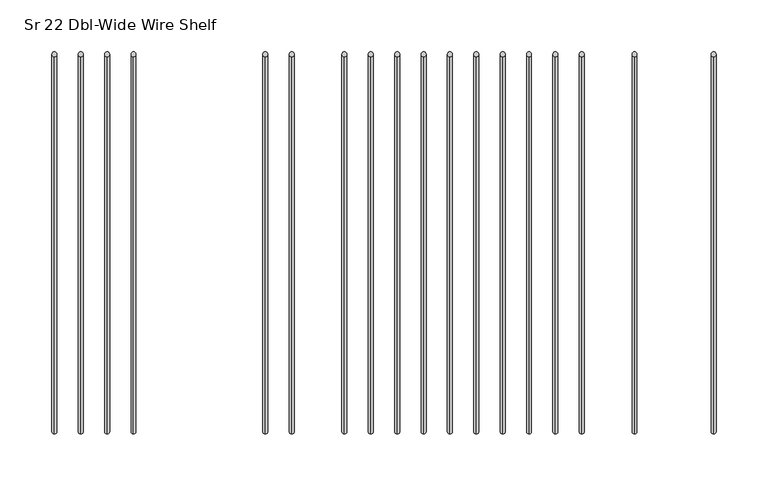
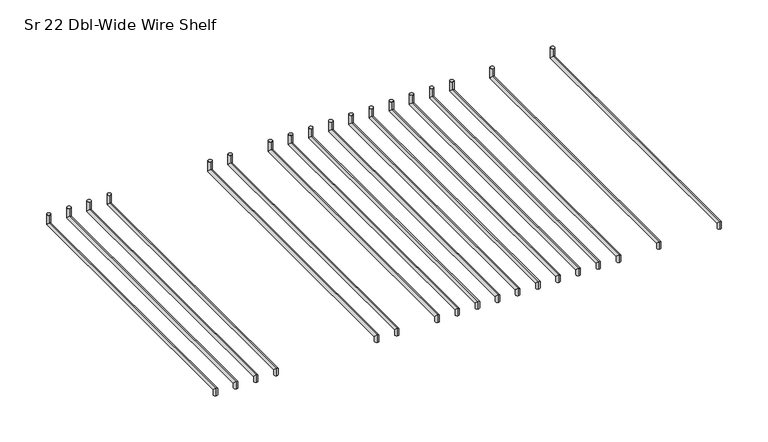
"""IFC4 building model written with IfcOpenShell, lengths in millimetres: furniture geometry, HermanMiller_Carts_CT521_CartShelf : Sr 22 Dbl-Wide Wire Shelf."""

from ifc_helpers import new_model, si_unit, frame, origin, place, context, project, spatial, circle_curve, ellipse_curve, source, transform, mapped, element, save
from ifc_brep_helpers import plane_surface, cylinder_surface, advanced_brep


def sr_22_dbl_wide_wire_shelf_ce08453b(model_context):
    return source(origin(), model_context, "Body", "AdvancedBrep", [
        advanced_brep(
        [(358.5223083, -206.38135, 1843.6971), (358.5223083, -211.14385, 1843.6971), (358.5223083, -206.38135, 1848.4596), (358.5223083, -211.14385, 1853.2221), (358.5223083, 157.2983379, 1848.4596), (358.5223083, 152.5358379, 1853.2221), (358.5223083, 157.2983379, 1863.7377), (358.5223083, 152.5358379, 1863.7377)],
        [
            (0, 1, circle_curve(frame((358.5223083, -208.7626, 1843.6971), z_axis=(0.0, 0.0, -1.0), x_axis=(0.0, -1.0, 0.0)), 2.38125)),
            (1, 0, circle_curve(frame((358.5223083, -208.7626, 1843.6971), z_axis=(0.0, 0.0, -1.0), x_axis=(0.0, -1.0, 0.0)), 2.38125)),
            (0, 2),
            (2, 3, ellipse_curve(frame((358.5223083, -208.7626, 1850.84085), z_axis=(0.0, -0.7071067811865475, -0.7071067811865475), x_axis=(0.0, 0.7071067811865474, -0.7071067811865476)), 3.367596, 2.38125)),
            (3, 1),
            (3, 2, ellipse_curve(frame((358.5223083, -208.7626, 1850.84085), z_axis=(0.0, -0.7071067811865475, -0.7071067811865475), x_axis=(0.0, 0.7071067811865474, -0.7071067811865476)), 3.367596, 2.38125)),
            (2, 4),
            (4, 5, ellipse_curve(frame((358.5223083, 154.9170879, 1850.84085), z_axis=(0.0, -0.7071067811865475, -0.7071067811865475), x_axis=(0.0, -0.7071067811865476, 0.7071067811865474)), 3.367596, 2.38125)),
            (5, 3),
            (5, 4, ellipse_curve(frame((358.5223083, 154.9170879, 1850.84085), z_axis=(0.0, -0.7071067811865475, -0.7071067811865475), x_axis=(0.0, -0.7071067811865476, 0.7071067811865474)), 3.367596, 2.38125)),
            (6, 7, circle_curve(frame((358.5223083, 154.9170879, 1863.7377), z_axis=(0.0, 0.0, 1.0), x_axis=(0.0, -1.0, 0.0)), 2.38125)),
            (7, 6, circle_curve(frame((358.5223083, 154.9170879, 1863.7377), z_axis=(0.0, 0.0, 1.0), x_axis=(0.0, -1.0, 0.0)), 2.38125)),
            (4, 6),
            (7, 5),
        ],
        [
            plane_surface(frame((358.5223083, -208.7626, 1843.6971), z_axis=(0.0, 0.0, -1.0), x_axis=(1.0, 0.0, 0.0))),
            cylinder_surface(frame((358.5223083, -208.7626, 1843.6971), z_axis=(0.0, 0.0, -1.0), x_axis=(0.0, -1.0, 0.0)), 2.38125),
            cylinder_surface(frame((358.5223083, -208.7626, 1850.84085), z_axis=(0.0, -1.0, 0.0), x_axis=(0.0, 0.0, 1.0)), 2.38125),
            plane_surface(frame((358.5223083, 154.9170879, 1863.7377), z_axis=(0.0, 0.0, 1.0), x_axis=(1.0, 0.0, 0.0))),
            cylinder_surface(frame((358.5223083, 154.9170879, 1850.84085), z_axis=(0.0, 0.0, -1.0), x_axis=(0.0, -1.0, 0.0)), 2.38125),
        ],
        [
            (0, [[1, 2]]),
            (1, [[-1, 3, 4, 5]]),
            (1, [[-2, -5, 6, -3]]),
            (2, [[-4, 7, 8, 9]]),
            (2, [[-6, -9, 10, -7]]),
            (3, [[11, 12]]),
            (4, [[-8, 13, -12, 14]]),
            (4, [[-10, -14, -11, -13]]),
        ],
    ),
        advanced_brep(
        [(282.3223083, -206.38135, 1843.6971), (282.3223083, -211.14385, 1843.6971), (282.3223083, -206.38135, 1848.4596), (282.3223083, -211.14385, 1853.2221), (282.3223083, 157.2983379, 1848.4596), (282.3223083, 152.5358379, 1853.2221), (282.3223083, 157.2983379, 1863.7377), (282.3223083, 152.5358379, 1863.7377)],
        [
            (0, 1, circle_curve(frame((282.3223083, -208.7626, 1843.6971), z_axis=(0.0, 0.0, -1.0), x_axis=(0.0, -1.0, 0.0)), 2.38125)),
            (1, 0, circle_curve(frame((282.3223083, -208.7626, 1843.6971), z_axis=(0.0, 0.0, -1.0), x_axis=(0.0, -1.0, 0.0)), 2.38125)),
            (0, 2),
            (2, 3, ellipse_curve(frame((282.3223083, -208.7626, 1850.84085), z_axis=(0.0, -0.7071067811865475, -0.7071067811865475), x_axis=(0.0, 0.7071067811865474, -0.7071067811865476)), 3.367596, 2.38125)),
            (3, 1),
            (3, 2, ellipse_curve(frame((282.3223083, -208.7626, 1850.84085), z_axis=(0.0, -0.7071067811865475, -0.7071067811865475), x_axis=(0.0, 0.7071067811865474, -0.7071067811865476)), 3.367596, 2.38125)),
            (2, 4),
            (4, 5, ellipse_curve(frame((282.3223083, 154.9170879, 1850.84085), z_axis=(0.0, -0.7071067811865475, -0.7071067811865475), x_axis=(0.0, -0.7071067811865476, 0.7071067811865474)), 3.367596, 2.38125)),
            (5, 3),
            (5, 4, ellipse_curve(frame((282.3223083, 154.9170879, 1850.84085), z_axis=(0.0, -0.7071067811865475, -0.7071067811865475), x_axis=(0.0, -0.7071067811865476, 0.7071067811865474)), 3.367596, 2.38125)),
            (6, 7, circle_curve(frame((282.3223083, 154.9170879, 1863.7377), z_axis=(0.0, 0.0, 1.0), x_axis=(0.0, -1.0, 0.0)), 2.38125)),
            (7, 6, circle_curve(frame((282.3223083, 154.9170879, 1863.7377), z_axis=(0.0, 0.0, 1.0), x_axis=(0.0, -1.0, 0.0)), 2.38125)),
            (4, 6),
            (7, 5),
        ],
        [
            plane_surface(frame((282.3223083, -208.7626, 1843.6971), z_axis=(0.0, 0.0, -1.0), x_axis=(1.0, 0.0, 0.0))),
            cylinder_surface(frame((282.3223083, -208.7626, 1843.6971), z_axis=(0.0, 0.0, -1.0), x_axis=(0.0, -1.0, 0.0)), 2.38125),
            cylinder_surface(frame((282.3223083, -208.7626, 1850.84085), z_axis=(0.0, -1.0, 0.0), x_axis=(0.0, 0.0, 1.0)), 2.38125),
            plane_surface(frame((282.3223083, 154.9170879, 1863.7377), z_axis=(0.0, 0.0, 1.0), x_axis=(1.0, 0.0, 0.0))),
            cylinder_surface(frame((282.3223083, 154.9170879, 1850.84085), z_axis=(0.0, 0.0, -1.0), x_axis=(0.0, -1.0, 0.0)), 2.38125),
        ],
        [
            (0, [[1, 2]]),
            (1, [[-1, 3, 4, 5]]),
            (1, [[-2, -5, 6, -3]]),
            (2, [[-4, 7, 8, 9]]),
            (2, [[-6, -9, 10, -7]]),
            (3, [[11, 12]]),
            (4, [[-8, 13, -12, 14]]),
            (4, [[-10, -14, -11, -13]]),
        ],
    ),
        advanced_brep(
        [(28.3223083, -206.38135, 1843.6971), (28.3223083, -211.14385, 1843.6971), (28.3223083, -206.38135, 1848.4596), (28.3223083, -211.14385, 1853.2221), (28.3223083, 157.2983379, 1848.4596), (28.3223083, 152.5358379, 1853.2221), (28.3223083, 157.2983379, 1863.7377), (28.3223083, 152.5358379, 1863.7377)],
        [
            (0, 1, circle_curve(frame((28.3223083, -208.7626, 1843.6971), z_axis=(0.0, 0.0, -1.0), x_axis=(0.0, -1.0, 0.0)), 2.38125)),
            (1, 0, circle_curve(frame((28.3223083, -208.7626, 1843.6971), z_axis=(0.0, 0.0, -1.0), x_axis=(0.0, -1.0, 0.0)), 2.38125)),
            (0, 2),
            (2, 3, ellipse_curve(frame((28.3223083, -208.7626, 1850.84085), z_axis=(0.0, -0.7071067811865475, -0.7071067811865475), x_axis=(0.0, 0.7071067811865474, -0.7071067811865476)), 3.367596, 2.38125)),
            (3, 1),
            (3, 2, ellipse_curve(frame((28.3223083, -208.7626, 1850.84085), z_axis=(0.0, -0.7071067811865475, -0.7071067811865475), x_axis=(0.0, 0.7071067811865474, -0.7071067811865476)), 3.367596, 2.38125)),
            (2, 4),
            (4, 5, ellipse_curve(frame((28.3223083, 154.9170879, 1850.84085), z_axis=(0.0, -0.7071067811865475, -0.7071067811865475), x_axis=(0.0, -0.7071067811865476, 0.7071067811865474)), 3.367596, 2.38125)),
            (5, 3),
            (5, 4, ellipse_curve(frame((28.3223083, 154.9170879, 1850.84085), z_axis=(0.0, -0.7071067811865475, -0.7071067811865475), x_axis=(0.0, -0.7071067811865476, 0.7071067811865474)), 3.367596, 2.38125)),
            (6, 7, circle_curve(frame((28.3223083, 154.9170879, 1863.7377), z_axis=(0.0, 0.0, 1.0), x_axis=(0.0, -1.0, 0.0)), 2.38125)),
            (7, 6, circle_curve(frame((28.3223083, 154.9170879, 1863.7377), z_axis=(0.0, 0.0, 1.0), x_axis=(0.0, -1.0, 0.0)), 2.38125)),
            (4, 6),
            (7, 5),
        ],
        [
            plane_surface(frame((28.3223083, -208.7626, 1843.6971), z_axis=(0.0, 0.0, -1.0), x_axis=(1.0, 0.0, 0.0))),
            cylinder_surface(frame((28.3223083, -208.7626, 1843.6971), z_axis=(0.0, 0.0, -1.0), x_axis=(0.0, -1.0, 0.0)), 2.38125),
            cylinder_surface(frame((28.3223083, -208.7626, 1850.84085), z_axis=(0.0, -1.0, 0.0), x_axis=(0.0, 0.0, 1.0)), 2.38125),
            plane_surface(frame((28.3223083, 154.9170879, 1863.7377), z_axis=(0.0, 0.0, 1.0), x_axis=(1.0, 0.0, 0.0))),
            cylinder_surface(frame((28.3223083, 154.9170879, 1850.84085), z_axis=(0.0, 0.0, -1.0), x_axis=(0.0, -1.0, 0.0)), 2.38125),
        ],
        [
            (0, [[1, 2]]),
            (1, [[-1, 3, 4, 5]]),
            (1, [[-2, -5, 6, -3]]),
            (2, [[-4, 7, 8, 9]]),
            (2, [[-6, -9, 10, -7]]),
            (3, [[11, 12]]),
            (4, [[-8, 13, -12, 14]]),
            (4, [[-10, -14, -11, -13]]),
        ],
    ),
        advanced_brep(
        [(-47.8776917, -206.38135, 1843.6971), (-47.8776917, -211.14385, 1843.6971), (-47.8776917, -206.38135, 1848.4596), (-47.8776917, -211.14385, 1853.2221), (-47.8776917, 157.2983379, 1848.4596), (-47.8776917, 152.5358379, 1853.2221), (-47.8776917, 157.2983379, 1863.7377), (-47.8776917, 152.5358379, 1863.7377)],
        [
            (0, 1, circle_curve(frame((-47.8776917, -208.7626, 1843.6971), z_axis=(0.0, 0.0, -1.0), x_axis=(0.0, -1.0, 0.0)), 2.38125)),
            (1, 0, circle_curve(frame((-47.8776917, -208.7626, 1843.6971), z_axis=(0.0, 0.0, -1.0), x_axis=(0.0, -1.0, 0.0)), 2.38125)),
            (0, 2),
            (2, 3, ellipse_curve(frame((-47.8776917, -208.7626, 1850.84085), z_axis=(0.0, -0.7071067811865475, -0.7071067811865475), x_axis=(0.0, 0.7071067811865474, -0.7071067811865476)), 3.367596, 2.38125)),
            (3, 1),
            (3, 2, ellipse_curve(frame((-47.8776917, -208.7626, 1850.84085), z_axis=(0.0, -0.7071067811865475, -0.7071067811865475), x_axis=(0.0, 0.7071067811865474, -0.7071067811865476)), 3.367596, 2.38125)),
            (2, 4),
            (4, 5, ellipse_curve(frame((-47.8776917, 154.9170879, 1850.84085), z_axis=(0.0, -0.7071067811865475, -0.7071067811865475), x_axis=(0.0, -0.7071067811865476, 0.7071067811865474)), 3.367596, 2.38125)),
            (5, 3),
            (5, 4, ellipse_curve(frame((-47.8776917, 154.9170879, 1850.84085), z_axis=(0.0, -0.7071067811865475, -0.7071067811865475), x_axis=(0.0, -0.7071067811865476, 0.7071067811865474)), 3.367596, 2.38125)),
            (6, 7, circle_curve(frame((-47.8776917, 154.9170879, 1863.7377), z_axis=(0.0, 0.0, 1.0), x_axis=(0.0, -1.0, 0.0)), 2.38125)),
            (7, 6, circle_curve(frame((-47.8776917, 154.9170879, 1863.7377), z_axis=(0.0, 0.0, 1.0), x_axis=(0.0, -1.0, 0.0)), 2.38125)),
            (4, 6),
            (7, 5),
        ],
        [
            plane_surface(frame((-47.8776917, -208.7626, 1843.6971), z_axis=(0.0, 0.0, -1.0), x_axis=(1.0, 0.0, 0.0))),
            cylinder_surface(frame((-47.8776917, -208.7626, 1843.6971), z_axis=(0.0, 0.0, -1.0), x_axis=(0.0, -1.0, 0.0)), 2.38125),
            cylinder_surface(frame((-47.8776917, -208.7626, 1850.84085), z_axis=(0.0, -1.0, 0.0), x_axis=(0.0, 0.0, 1.0)), 2.38125),
            plane_surface(frame((-47.8776917, 154.9170879, 1863.7377), z_axis=(0.0, 0.0, 1.0), x_axis=(1.0, 0.0, 0.0))),
            cylinder_surface(frame((-47.8776917, 154.9170879, 1850.84085), z_axis=(0.0, 0.0, -1.0), x_axis=(0.0, -1.0, 0.0)), 2.38125),
        ],
        [
            (0, [[1, 2]]),
            (1, [[-1, 3, 4, 5]]),
            (1, [[-2, -5, 6, -3]]),
            (2, [[-4, 7, 8, 9]]),
            (2, [[-6, -9, 10, -7]]),
            (3, [[11, 12]]),
            (4, [[-8, 13, -12, 14]]),
            (4, [[-10, -14, -11, -13]]),
        ],
    ),
        advanced_brep(
        [(-73.2776917, -206.38135, 1843.6971), (-73.2776917, -211.14385, 1843.6971), (-73.2776917, -206.38135, 1848.4596), (-73.2776917, -211.14385, 1853.2221), (-73.2776917, 157.2983379, 1848.4596), (-73.2776917, 152.5358379, 1853.2221), (-73.2776917, 157.2983379, 1863.7377), (-73.2776917, 152.5358379, 1863.7377)],
        [
            (0, 1, circle_curve(frame((-73.2776917, -208.7626, 1843.6971), z_axis=(0.0, 0.0, -1.0), x_axis=(0.0, -1.0, 0.0)), 2.38125)),
            (1, 0, circle_curve(frame((-73.2776917, -208.7626, 1843.6971), z_axis=(0.0, 0.0, -1.0), x_axis=(0.0, -1.0, 0.0)), 2.38125)),
            (0, 2),
            (2, 3, ellipse_curve(frame((-73.2776917, -208.7626, 1850.84085), z_axis=(0.0, -0.7071067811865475, -0.7071067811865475), x_axis=(0.0, 0.7071067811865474, -0.7071067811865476)), 3.367596, 2.38125)),
            (3, 1),
            (3, 2, ellipse_curve(frame((-73.2776917, -208.7626, 1850.84085), z_axis=(0.0, -0.7071067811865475, -0.7071067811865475), x_axis=(0.0, 0.7071067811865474, -0.7071067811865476)), 3.367596, 2.38125)),
            (2, 4),
            (4, 5, ellipse_curve(frame((-73.2776917, 154.9170879, 1850.84085), z_axis=(0.0, -0.7071067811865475, -0.7071067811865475), x_axis=(0.0, -0.7071067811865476, 0.7071067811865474)), 3.367596, 2.38125)),
            (5, 3),
            (5, 4, ellipse_curve(frame((-73.2776917, 154.9170879, 1850.84085), z_axis=(0.0, -0.7071067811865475, -0.7071067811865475), x_axis=(0.0, -0.7071067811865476, 0.7071067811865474)), 3.367596, 2.38125)),
            (6, 7, circle_curve(frame((-73.2776917, 154.9170879, 1863.7377), z_axis=(0.0, 0.0, 1.0), x_axis=(0.0, -1.0, 0.0)), 2.38125)),
            (7, 6, circle_curve(frame((-73.2776917, 154.9170879, 1863.7377), z_axis=(0.0, 0.0, 1.0), x_axis=(0.0, -1.0, 0.0)), 2.38125)),
            (4, 6),
            (7, 5),
        ],
        [
            plane_surface(frame((-73.2776917, -208.7626, 1843.6971), z_axis=(0.0, 0.0, -1.0), x_axis=(1.0, 0.0, 0.0))),
            cylinder_surface(frame((-73.2776917, -208.7626, 1843.6971), z_axis=(0.0, 0.0, -1.0), x_axis=(0.0, -1.0, 0.0)), 2.38125),
            cylinder_surface(frame((-73.2776917, -208.7626, 1850.84085), z_axis=(0.0, -1.0, 0.0), x_axis=(0.0, 0.0, 1.0)), 2.38125),
            plane_surface(frame((-73.2776917, 154.9170879, 1863.7377), z_axis=(0.0, 0.0, 1.0), x_axis=(1.0, 0.0, 0.0))),
            cylinder_surface(frame((-73.2776917, 154.9170879, 1850.84085), z_axis=(0.0, 0.0, -1.0), x_axis=(0.0, -1.0, 0.0)), 2.38125),
        ],
        [
            (0, [[1, 2]]),
            (1, [[-1, 3, 4, 5]]),
            (1, [[-2, -5, 6, -3]]),
            (2, [[-4, 7, 8, 9]]),
            (2, [[-6, -9, 10, -7]]),
            (3, [[11, 12]]),
            (4, [[-8, 13, -12, 14]]),
            (4, [[-10, -14, -11, -13]]),
        ],
    ),
        advanced_brep(
        [(2.9223083, -206.38135, 1843.6971), (2.9223083, -211.14385, 1843.6971), (2.9223083, -206.38135, 1848.4596), (2.9223083, -211.14385, 1853.2221), (2.9223083, 157.2983379, 1848.4596), (2.9223083, 152.5358379, 1853.2221), (2.9223083, 157.2983379, 1863.7377), (2.9223083, 152.5358379, 1863.7377)],
        [
            (0, 1, circle_curve(frame((2.9223083, -208.7626, 1843.6971), z_axis=(0.0, 0.0, -1.0), x_axis=(0.0, -1.0, 0.0)), 2.38125)),
            (1, 0, circle_curve(frame((2.9223083, -208.7626, 1843.6971), z_axis=(0.0, 0.0, -1.0), x_axis=(0.0, -1.0, 0.0)), 2.38125)),
            (0, 2),
            (2, 3, ellipse_curve(frame((2.9223083, -208.7626, 1850.84085), z_axis=(0.0, -0.7071067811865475, -0.7071067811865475), x_axis=(0.0, 0.7071067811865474, -0.7071067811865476)), 3.367596, 2.38125)),
            (3, 1),
            (3, 2, ellipse_curve(frame((2.9223083, -208.7626, 1850.84085), z_axis=(0.0, -0.7071067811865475, -0.7071067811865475), x_axis=(0.0, 0.7071067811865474, -0.7071067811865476)), 3.367596, 2.38125)),
            (2, 4),
            (4, 5, ellipse_curve(frame((2.9223083, 154.9170879, 1850.84085), z_axis=(0.0, -0.7071067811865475, -0.7071067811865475), x_axis=(0.0, -0.7071067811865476, 0.7071067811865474)), 3.367596, 2.38125)),
            (5, 3),
            (5, 4, ellipse_curve(frame((2.9223083, 154.9170879, 1850.84085), z_axis=(0.0, -0.7071067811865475, -0.7071067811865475), x_axis=(0.0, -0.7071067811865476, 0.7071067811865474)), 3.367596, 2.38125)),
            (6, 7, circle_curve(frame((2.9223083, 154.9170879, 1863.7377), z_axis=(0.0, 0.0, 1.0), x_axis=(0.0, -1.0, 0.0)), 2.38125)),
            (7, 6, circle_curve(frame((2.9223083, 154.9170879, 1863.7377), z_axis=(0.0, 0.0, 1.0), x_axis=(0.0, -1.0, 0.0)), 2.38125)),
            (4, 6),
            (7, 5),
        ],
        [
            plane_surface(frame((2.9223083, -208.7626, 1843.6971), z_axis=(0.0, 0.0, -1.0), x_axis=(1.0, 0.0, 0.0))),
            cylinder_surface(frame((2.9223083, -208.7626, 1843.6971), z_axis=(0.0, 0.0, -1.0), x_axis=(0.0, -1.0, 0.0)), 2.38125),
            cylinder_surface(frame((2.9223083, -208.7626, 1850.84085), z_axis=(0.0, -1.0, 0.0), x_axis=(0.0, 0.0, 1.0)), 2.38125),
            plane_surface(frame((2.9223083, 154.9170879, 1863.7377), z_axis=(0.0, 0.0, 1.0), x_axis=(1.0, 0.0, 0.0))),
            cylinder_surface(frame((2.9223083, 154.9170879, 1850.84085), z_axis=(0.0, 0.0, -1.0), x_axis=(0.0, -1.0, 0.0)), 2.38125),
        ],
        [
            (0, [[1, 2]]),
            (1, [[-1, 3, 4, 5]]),
            (1, [[-2, -5, 6, -3]]),
            (2, [[-4, 7, 8, 9]]),
            (2, [[-6, -9, 10, -7]]),
            (3, [[11, 12]]),
            (4, [[-8, 13, -12, 14]]),
            (4, [[-10, -14, -11, -13]]),
        ],
    ),
        advanced_brep(
        [(53.7223083, -206.38135, 1843.6971), (53.7223083, -211.14385, 1843.6971), (53.7223083, -206.38135, 1848.4596), (53.7223083, -211.14385, 1853.2221), (53.7223083, 157.2983379, 1848.4596), (53.7223083, 152.5358379, 1853.2221), (53.7223083, 157.2983379, 1863.7377), (53.7223083, 152.5358379, 1863.7377)],
        [
            (0, 1, circle_curve(frame((53.7223083, -208.7626, 1843.6971), z_axis=(0.0, 0.0, -1.0), x_axis=(0.0, -1.0, 0.0)), 2.38125)),
            (1, 0, circle_curve(frame((53.7223083, -208.7626, 1843.6971), z_axis=(0.0, 0.0, -1.0), x_axis=(0.0, -1.0, 0.0)), 2.38125)),
            (0, 2),
            (2, 3, ellipse_curve(frame((53.7223083, -208.7626, 1850.84085), z_axis=(0.0, -0.7071067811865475, -0.7071067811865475), x_axis=(0.0, 0.7071067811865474, -0.7071067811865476)), 3.367596, 2.38125)),
            (3, 1),
            (3, 2, ellipse_curve(frame((53.7223083, -208.7626, 1850.84085), z_axis=(0.0, -0.7071067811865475, -0.7071067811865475), x_axis=(0.0, 0.7071067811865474, -0.7071067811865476)), 3.367596, 2.38125)),
            (2, 4),
            (4, 5, ellipse_curve(frame((53.7223083, 154.9170879, 1850.84085), z_axis=(0.0, -0.7071067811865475, -0.7071067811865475), x_axis=(0.0, -0.7071067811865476, 0.7071067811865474)), 3.367596, 2.38125)),
            (5, 3),
            (5, 4, ellipse_curve(frame((53.7223083, 154.9170879, 1850.84085), z_axis=(0.0, -0.7071067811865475, -0.7071067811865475), x_axis=(0.0, -0.7071067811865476, 0.7071067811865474)), 3.367596, 2.38125)),
            (6, 7, circle_curve(frame((53.7223083, 154.9170879, 1863.7377), z_axis=(0.0, 0.0, 1.0), x_axis=(0.0, -1.0, 0.0)), 2.38125)),
            (7, 6, circle_curve(frame((53.7223083, 154.9170879, 1863.7377), z_axis=(0.0, 0.0, 1.0), x_axis=(0.0, -1.0, 0.0)), 2.38125)),
            (4, 6),
            (7, 5),
        ],
        [
            plane_surface(frame((53.7223083, -208.7626, 1843.6971), z_axis=(0.0, 0.0, -1.0), x_axis=(1.0, 0.0, 0.0))),
            cylinder_surface(frame((53.7223083, -208.7626, 1843.6971), z_axis=(0.0, 0.0, -1.0), x_axis=(0.0, -1.0, 0.0)), 2.38125),
            cylinder_surface(frame((53.7223083, -208.7626, 1850.84085), z_axis=(0.0, -1.0, 0.0), x_axis=(0.0, 0.0, 1.0)), 2.38125),
            plane_surface(frame((53.7223083, 154.9170879, 1863.7377), z_axis=(0.0, 0.0, 1.0), x_axis=(1.0, 0.0, 0.0))),
            cylinder_surface(frame((53.7223083, 154.9170879, 1850.84085), z_axis=(0.0, 0.0, -1.0), x_axis=(0.0, -1.0, 0.0)), 2.38125),
        ],
        [
            (0, [[1, 2]]),
            (1, [[-1, 3, 4, 5]]),
            (1, [[-2, -5, 6, -3]]),
            (2, [[-4, 7, 8, 9]]),
            (2, [[-6, -9, 10, -7]]),
            (3, [[11, 12]]),
            (4, [[-8, 13, -12, 14]]),
            (4, [[-10, -14, -11, -13]]),
        ],
    ),
        advanced_brep(
        [(79.1223083, -206.38135, 1843.6971), (79.1223083, -211.14385, 1843.6971), (79.1223083, -206.38135, 1848.4596), (79.1223083, -211.14385, 1853.2221), (79.1223083, 157.2983379, 1848.4596), (79.1223083, 152.5358379, 1853.2221), (79.1223083, 157.2983379, 1863.7377), (79.1223083, 152.5358379, 1863.7377)],
        [
            (0, 1, circle_curve(frame((79.1223083, -208.7626, 1843.6971), z_axis=(0.0, 0.0, -1.0), x_axis=(0.0, -1.0, 0.0)), 2.38125)),
            (1, 0, circle_curve(frame((79.1223083, -208.7626, 1843.6971), z_axis=(0.0, 0.0, -1.0), x_axis=(0.0, -1.0, 0.0)), 2.38125)),
            (0, 2),
            (2, 3, ellipse_curve(frame((79.1223083, -208.7626, 1850.84085), z_axis=(0.0, -0.7071067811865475, -0.7071067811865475), x_axis=(0.0, 0.7071067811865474, -0.7071067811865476)), 3.367596, 2.38125)),
            (3, 1),
            (3, 2, ellipse_curve(frame((79.1223083, -208.7626, 1850.84085), z_axis=(0.0, -0.7071067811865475, -0.7071067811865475), x_axis=(0.0, 0.7071067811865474, -0.7071067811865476)), 3.367596, 2.38125)),
            (2, 4),
            (4, 5, ellipse_curve(frame((79.1223083, 154.9170879, 1850.84085), z_axis=(0.0, -0.7071067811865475, -0.7071067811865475), x_axis=(0.0, -0.7071067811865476, 0.7071067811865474)), 3.367596, 2.38125)),
            (5, 3),
            (5, 4, ellipse_curve(frame((79.1223083, 154.9170879, 1850.84085), z_axis=(0.0, -0.7071067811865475, -0.7071067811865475), x_axis=(0.0, -0.7071067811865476, 0.7071067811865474)), 3.367596, 2.38125)),
            (6, 7, circle_curve(frame((79.1223083, 154.9170879, 1863.7377), z_axis=(0.0, 0.0, 1.0), x_axis=(0.0, -1.0, 0.0)), 2.38125)),
            (7, 6, circle_curve(frame((79.1223083, 154.9170879, 1863.7377), z_axis=(0.0, 0.0, 1.0), x_axis=(0.0, -1.0, 0.0)), 2.38125)),
            (4, 6),
            (7, 5),
        ],
        [
            plane_surface(frame((79.1223083, -208.7626, 1843.6971), z_axis=(0.0, 0.0, -1.0), x_axis=(1.0, 0.0, 0.0))),
            cylinder_surface(frame((79.1223083, -208.7626, 1843.6971), z_axis=(0.0, 0.0, -1.0), x_axis=(0.0, -1.0, 0.0)), 2.38125),
            cylinder_surface(frame((79.1223083, -208.7626, 1850.84085), z_axis=(0.0, -1.0, 0.0), x_axis=(0.0, 0.0, 1.0)), 2.38125),
            plane_surface(frame((79.1223083, 154.9170879, 1863.7377), z_axis=(0.0, 0.0, 1.0), x_axis=(1.0, 0.0, 0.0))),
            cylinder_surface(frame((79.1223083, 154.9170879, 1850.84085), z_axis=(0.0, 0.0, -1.0), x_axis=(0.0, -1.0, 0.0)), 2.38125),
        ],
        [
            (0, [[1, 2]]),
            (1, [[-1, 3, 4, 5]]),
            (1, [[-2, -5, 6, -3]]),
            (2, [[-4, 7, 8, 9]]),
            (2, [[-6, -9, 10, -7]]),
            (3, [[11, 12]]),
            (4, [[-8, 13, -12, 14]]),
            (4, [[-10, -14, -11, -13]]),
        ],
    ),
        advanced_brep(
        [(104.5223083, -206.38135, 1843.6971), (104.5223083, -211.14385, 1843.6971), (104.5223083, -206.38135, 1848.4596), (104.5223083, -211.14385, 1853.2221), (104.5223083, 157.2983379, 1848.4596), (104.5223083, 152.5358379, 1853.2221), (104.5223083, 157.2983379, 1863.7377), (104.5223083, 152.5358379, 1863.7377)],
        [
            (0, 1, circle_curve(frame((104.5223083, -208.7626, 1843.6971), z_axis=(0.0, 0.0, -1.0), x_axis=(0.0, -1.0, 0.0)), 2.38125)),
            (1, 0, circle_curve(frame((104.5223083, -208.7626, 1843.6971), z_axis=(0.0, 0.0, -1.0), x_axis=(0.0, -1.0, 0.0)), 2.38125)),
            (0, 2),
            (2, 3, ellipse_curve(frame((104.5223083, -208.7626, 1850.84085), z_axis=(0.0, -0.7071067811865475, -0.7071067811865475), x_axis=(0.0, 0.7071067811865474, -0.7071067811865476)), 3.367596, 2.38125)),
            (3, 1),
            (3, 2, ellipse_curve(frame((104.5223083, -208.7626, 1850.84085), z_axis=(0.0, -0.7071067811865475, -0.7071067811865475), x_axis=(0.0, 0.7071067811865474, -0.7071067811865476)), 3.367596, 2.38125)),
            (2, 4),
            (4, 5, ellipse_curve(frame((104.5223083, 154.9170879, 1850.84085), z_axis=(0.0, -0.7071067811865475, -0.7071067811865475), x_axis=(0.0, -0.7071067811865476, 0.7071067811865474)), 3.367596, 2.38125)),
            (5, 3),
            (5, 4, ellipse_curve(frame((104.5223083, 154.9170879, 1850.84085), z_axis=(0.0, -0.7071067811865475, -0.7071067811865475), x_axis=(0.0, -0.7071067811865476, 0.7071067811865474)), 3.367596, 2.38125)),
            (6, 7, circle_curve(frame((104.5223083, 154.9170879, 1863.7377), z_axis=(0.0, 0.0, 1.0), x_axis=(0.0, -1.0, 0.0)), 2.38125)),
            (7, 6, circle_curve(frame((104.5223083, 154.9170879, 1863.7377), z_axis=(0.0, 0.0, 1.0), x_axis=(0.0, -1.0, 0.0)), 2.38125)),
            (4, 6),
            (7, 5),
        ],
        [
            plane_surface(frame((104.5223083, -208.7626, 1843.6971), z_axis=(0.0, 0.0, -1.0), x_axis=(1.0, 0.0, 0.0))),
            cylinder_surface(frame((104.5223083, -208.7626, 1843.6971), z_axis=(0.0, 0.0, -1.0), x_axis=(0.0, -1.0, 0.0)), 2.38125),
            cylinder_surface(frame((104.5223083, -208.7626, 1850.84085), z_axis=(0.0, -1.0, 0.0), x_axis=(0.0, 0.0, 1.0)), 2.38125),
            plane_surface(frame((104.5223083, 154.9170879, 1863.7377), z_axis=(0.0, 0.0, 1.0), x_axis=(1.0, 0.0, 0.0))),
            cylinder_surface(frame((104.5223083, 154.9170879, 1850.84085), z_axis=(0.0, 0.0, -1.0), x_axis=(0.0, -1.0, 0.0)), 2.38125),
        ],
        [
            (0, [[1, 2]]),
            (1, [[-1, 3, 4, 5]]),
            (1, [[-2, -5, 6, -3]]),
            (2, [[-4, 7, 8, 9]]),
            (2, [[-6, -9, 10, -7]]),
            (3, [[11, 12]]),
            (4, [[-8, 13, -12, 14]]),
            (4, [[-10, -14, -11, -13]]),
        ],
    ),
        advanced_brep(
        [(129.9223083, -206.38135, 1843.6971), (129.9223083, -211.14385, 1843.6971), (129.9223083, -206.38135, 1848.4596), (129.9223083, -211.14385, 1853.2221), (129.9223083, 157.2983379, 1848.4596), (129.9223083, 152.5358379, 1853.2221), (129.9223083, 157.2983379, 1863.7377), (129.9223083, 152.5358379, 1863.7377)],
        [
            (0, 1, circle_curve(frame((129.9223083, -208.7626, 1843.6971), z_axis=(0.0, 0.0, -1.0), x_axis=(0.0, -1.0, 0.0)), 2.38125)),
            (1, 0, circle_curve(frame((129.9223083, -208.7626, 1843.6971), z_axis=(0.0, 0.0, -1.0), x_axis=(0.0, -1.0, 0.0)), 2.38125)),
            (0, 2),
            (2, 3, ellipse_curve(frame((129.9223083, -208.7626, 1850.84085), z_axis=(0.0, -0.7071067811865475, -0.7071067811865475), x_axis=(0.0, 0.7071067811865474, -0.7071067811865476)), 3.367596, 2.38125)),
            (3, 1),
            (3, 2, ellipse_curve(frame((129.9223083, -208.7626, 1850.84085), z_axis=(0.0, -0.7071067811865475, -0.7071067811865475), x_axis=(0.0, 0.7071067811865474, -0.7071067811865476)), 3.367596, 2.38125)),
            (2, 4),
            (4, 5, ellipse_curve(frame((129.9223083, 154.9170879, 1850.84085), z_axis=(0.0, -0.7071067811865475, -0.7071067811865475), x_axis=(0.0, -0.7071067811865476, 0.7071067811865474)), 3.367596, 2.38125)),
            (5, 3),
            (5, 4, ellipse_curve(frame((129.9223083, 154.9170879, 1850.84085), z_axis=(0.0, -0.7071067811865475, -0.7071067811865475), x_axis=(0.0, -0.7071067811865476, 0.7071067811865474)), 3.367596, 2.38125)),
            (6, 7, circle_curve(frame((129.9223083, 154.9170879, 1863.7377), z_axis=(0.0, 0.0, 1.0), x_axis=(0.0, -1.0, 0.0)), 2.38125)),
            (7, 6, circle_curve(frame((129.9223083, 154.9170879, 1863.7377), z_axis=(0.0, 0.0, 1.0), x_axis=(0.0, -1.0, 0.0)), 2.38125)),
            (4, 6),
            (7, 5),
        ],
        [
            plane_surface(frame((129.9223083, -208.7626, 1843.6971), z_axis=(0.0, 0.0, -1.0), x_axis=(1.0, 0.0, 0.0))),
            cylinder_surface(frame((129.9223083, -208.7626, 1843.6971), z_axis=(0.0, 0.0, -1.0), x_axis=(0.0, -1.0, 0.0)), 2.38125),
            cylinder_surface(frame((129.9223083, -208.7626, 1850.84085), z_axis=(0.0, -1.0, 0.0), x_axis=(0.0, 0.0, 1.0)), 2.38125),
            plane_surface(frame((129.9223083, 154.9170879, 1863.7377), z_axis=(0.0, 0.0, 1.0), x_axis=(1.0, 0.0, 0.0))),
            cylinder_surface(frame((129.9223083, 154.9170879, 1850.84085), z_axis=(0.0, 0.0, -1.0), x_axis=(0.0, -1.0, 0.0)), 2.38125),
        ],
        [
            (0, [[1, 2]]),
            (1, [[-1, 3, 4, 5]]),
            (1, [[-2, -5, 6, -3]]),
            (2, [[-4, 7, 8, 9]]),
            (2, [[-6, -9, 10, -7]]),
            (3, [[11, 12]]),
            (4, [[-8, 13, -12, 14]]),
            (4, [[-10, -14, -11, -13]]),
        ],
    ),
        advanced_brep(
        [(155.3223083, -206.38135, 1843.6971), (155.3223083, -211.14385, 1843.6971), (155.3223083, -206.38135, 1848.4596), (155.3223083, -211.14385, 1853.2221), (155.3223083, 157.2983379, 1848.4596), (155.3223083, 152.5358379, 1853.2221), (155.3223083, 157.2983379, 1863.7377), (155.3223083, 152.5358379, 1863.7377)],
        [
            (0, 1, circle_curve(frame((155.3223083, -208.7626, 1843.6971), z_axis=(0.0, 0.0, -1.0), x_axis=(0.0, -1.0, 0.0)), 2.38125)),
            (1, 0, circle_curve(frame((155.3223083, -208.7626, 1843.6971), z_axis=(0.0, 0.0, -1.0), x_axis=(0.0, -1.0, 0.0)), 2.38125)),
            (0, 2),
            (2, 3, ellipse_curve(frame((155.3223083, -208.7626, 1850.84085), z_axis=(0.0, -0.7071067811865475, -0.7071067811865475), x_axis=(0.0, 0.7071067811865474, -0.7071067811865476)), 3.367596, 2.38125)),
            (3, 1),
            (3, 2, ellipse_curve(frame((155.3223083, -208.7626, 1850.84085), z_axis=(0.0, -0.7071067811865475, -0.7071067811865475), x_axis=(0.0, 0.7071067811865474, -0.7071067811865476)), 3.367596, 2.38125)),
            (2, 4),
            (4, 5, ellipse_curve(frame((155.3223083, 154.9170879, 1850.84085), z_axis=(0.0, -0.7071067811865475, -0.7071067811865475), x_axis=(0.0, -0.7071067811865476, 0.7071067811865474)), 3.367596, 2.38125)),
            (5, 3),
            (5, 4, ellipse_curve(frame((155.3223083, 154.9170879, 1850.84085), z_axis=(0.0, -0.7071067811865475, -0.7071067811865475), x_axis=(0.0, -0.7071067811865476, 0.7071067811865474)), 3.367596, 2.38125)),
            (6, 7, circle_curve(frame((155.3223083, 154.9170879, 1863.7377), z_axis=(0.0, 0.0, 1.0), x_axis=(0.0, -1.0, 0.0)), 2.38125)),
            (7, 6, circle_curve(frame((155.3223083, 154.9170879, 1863.7377), z_axis=(0.0, 0.0, 1.0), x_axis=(0.0, -1.0, 0.0)), 2.38125)),
            (4, 6),
            (7, 5),
        ],
        [
            plane_surface(frame((155.3223083, -208.7626, 1843.6971), z_axis=(0.0, 0.0, -1.0), x_axis=(1.0, 0.0, 0.0))),
            cylinder_surface(frame((155.3223083, -208.7626, 1843.6971), z_axis=(0.0, 0.0, -1.0), x_axis=(0.0, -1.0, 0.0)), 2.38125),
            cylinder_surface(frame((155.3223083, -208.7626, 1850.84085), z_axis=(0.0, -1.0, 0.0), x_axis=(0.0, 0.0, 1.0)), 2.38125),
            plane_surface(frame((155.3223083, 154.9170879, 1863.7377), z_axis=(0.0, 0.0, 1.0), x_axis=(1.0, 0.0, 0.0))),
            cylinder_surface(frame((155.3223083, 154.9170879, 1850.84085), z_axis=(0.0, 0.0, -1.0), x_axis=(0.0, -1.0, 0.0)), 2.38125),
        ],
        [
            (0, [[1, 2]]),
            (1, [[-1, 3, 4, 5]]),
            (1, [[-2, -5, 6, -3]]),
            (2, [[-4, 7, 8, 9]]),
            (2, [[-6, -9, 10, -7]]),
            (3, [[11, 12]]),
            (4, [[-8, 13, -12, 14]]),
            (4, [[-10, -14, -11, -13]]),
        ],
    ),
        advanced_brep(
        [(180.7223083, -206.38135, 1843.6971), (180.7223083, -211.14385, 1843.6971), (180.7223083, -206.38135, 1848.4596), (180.7223083, -211.14385, 1853.2221), (180.7223083, 157.2983379, 1848.4596), (180.7223083, 152.5358379, 1853.2221), (180.7223083, 157.2983379, 1863.7377), (180.7223083, 152.5358379, 1863.7377)],
        [
            (0, 1, circle_curve(frame((180.7223083, -208.7626, 1843.6971), z_axis=(0.0, 0.0, -1.0), x_axis=(0.0, -1.0, 0.0)), 2.38125)),
            (1, 0, circle_curve(frame((180.7223083, -208.7626, 1843.6971), z_axis=(0.0, 0.0, -1.0), x_axis=(0.0, -1.0, 0.0)), 2.38125)),
            (0, 2),
            (2, 3, ellipse_curve(frame((180.7223083, -208.7626, 1850.84085), z_axis=(0.0, -0.7071067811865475, -0.7071067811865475), x_axis=(0.0, 0.7071067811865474, -0.7071067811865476)), 3.367596, 2.38125)),
            (3, 1),
            (3, 2, ellipse_curve(frame((180.7223083, -208.7626, 1850.84085), z_axis=(0.0, -0.7071067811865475, -0.7071067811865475), x_axis=(0.0, 0.7071067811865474, -0.7071067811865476)), 3.367596, 2.38125)),
            (2, 4),
            (4, 5, ellipse_curve(frame((180.7223083, 154.9170879, 1850.84085), z_axis=(0.0, -0.7071067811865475, -0.7071067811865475), x_axis=(0.0, -0.7071067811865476, 0.7071067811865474)), 3.367596, 2.38125)),
            (5, 3),
            (5, 4, ellipse_curve(frame((180.7223083, 154.9170879, 1850.84085), z_axis=(0.0, -0.7071067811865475, -0.7071067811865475), x_axis=(0.0, -0.7071067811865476, 0.7071067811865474)), 3.367596, 2.38125)),
            (6, 7, circle_curve(frame((180.7223083, 154.9170879, 1863.7377), z_axis=(0.0, 0.0, 1.0), x_axis=(0.0, -1.0, 0.0)), 2.38125)),
            (7, 6, circle_curve(frame((180.7223083, 154.9170879, 1863.7377), z_axis=(0.0, 0.0, 1.0), x_axis=(0.0, -1.0, 0.0)), 2.38125)),
            (4, 6),
            (7, 5),
        ],
        [
            plane_surface(frame((180.7223083, -208.7626, 1843.6971), z_axis=(0.0, 0.0, -1.0), x_axis=(1.0, 0.0, 0.0))),
            cylinder_surface(frame((180.7223083, -208.7626, 1843.6971), z_axis=(0.0, 0.0, -1.0), x_axis=(0.0, -1.0, 0.0)), 2.38125),
            cylinder_surface(frame((180.7223083, -208.7626, 1850.84085), z_axis=(0.0, -1.0, 0.0), x_axis=(0.0, 0.0, 1.0)), 2.38125),
            plane_surface(frame((180.7223083, 154.9170879, 1863.7377), z_axis=(0.0, 0.0, 1.0), x_axis=(1.0, 0.0, 0.0))),
            cylinder_surface(frame((180.7223083, 154.9170879, 1850.84085), z_axis=(0.0, 0.0, -1.0), x_axis=(0.0, -1.0, 0.0)), 2.38125),
        ],
        [
            (0, [[1, 2]]),
            (1, [[-1, 3, 4, 5]]),
            (1, [[-2, -5, 6, -3]]),
            (2, [[-4, 7, 8, 9]]),
            (2, [[-6, -9, 10, -7]]),
            (3, [[11, 12]]),
            (4, [[-8, 13, -12, 14]]),
            (4, [[-10, -14, -11, -13]]),
        ],
    ),
        advanced_brep(
        [(206.1223083, -206.38135, 1843.6971), (206.1223083, -211.14385, 1843.6971), (206.1223083, -206.38135, 1848.4596), (206.1223083, -211.14385, 1853.2221), (206.1223083, 157.2983379, 1848.4596), (206.1223083, 152.5358379, 1853.2221), (206.1223083, 157.2983379, 1863.7377), (206.1223083, 152.5358379, 1863.7377)],
        [
            (0, 1, circle_curve(frame((206.1223083, -208.7626, 1843.6971), z_axis=(0.0, 0.0, -1.0), x_axis=(0.0, -1.0, 0.0)), 2.38125)),
            (1, 0, circle_curve(frame((206.1223083, -208.7626, 1843.6971), z_axis=(0.0, 0.0, -1.0), x_axis=(0.0, -1.0, 0.0)), 2.38125)),
            (0, 2),
            (2, 3, ellipse_curve(frame((206.1223083, -208.7626, 1850.84085), z_axis=(0.0, -0.7071067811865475, -0.7071067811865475), x_axis=(0.0, 0.7071067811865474, -0.7071067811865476)), 3.367596, 2.38125)),
            (3, 1),
            (3, 2, ellipse_curve(frame((206.1223083, -208.7626, 1850.84085), z_axis=(0.0, -0.7071067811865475, -0.7071067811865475), x_axis=(0.0, 0.7071067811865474, -0.7071067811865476)), 3.367596, 2.38125)),
            (2, 4),
            (4, 5, ellipse_curve(frame((206.1223083, 154.9170879, 1850.84085), z_axis=(0.0, -0.7071067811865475, -0.7071067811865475), x_axis=(0.0, -0.7071067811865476, 0.7071067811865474)), 3.367596, 2.38125)),
            (5, 3),
            (5, 4, ellipse_curve(frame((206.1223083, 154.9170879, 1850.84085), z_axis=(0.0, -0.7071067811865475, -0.7071067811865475), x_axis=(0.0, -0.7071067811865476, 0.7071067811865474)), 3.367596, 2.38125)),
            (6, 7, circle_curve(frame((206.1223083, 154.9170879, 1863.7377), z_axis=(0.0, 0.0, 1.0), x_axis=(0.0, -1.0, 0.0)), 2.38125)),
            (7, 6, circle_curve(frame((206.1223083, 154.9170879, 1863.7377), z_axis=(0.0, 0.0, 1.0), x_axis=(0.0, -1.0, 0.0)), 2.38125)),
            (4, 6),
            (7, 5),
        ],
        [
            plane_surface(frame((206.1223083, -208.7626, 1843.6971), z_axis=(0.0, 0.0, -1.0), x_axis=(1.0, 0.0, 0.0))),
            cylinder_surface(frame((206.1223083, -208.7626, 1843.6971), z_axis=(0.0, 0.0, -1.0), x_axis=(0.0, -1.0, 0.0)), 2.38125),
            cylinder_surface(frame((206.1223083, -208.7626, 1850.84085), z_axis=(0.0, -1.0, 0.0), x_axis=(0.0, 0.0, 1.0)), 2.38125),
            plane_surface(frame((206.1223083, 154.9170879, 1863.7377), z_axis=(0.0, 0.0, 1.0), x_axis=(1.0, 0.0, 0.0))),
            cylinder_surface(frame((206.1223083, 154.9170879, 1850.84085), z_axis=(0.0, 0.0, -1.0), x_axis=(0.0, -1.0, 0.0)), 2.38125),
        ],
        [
            (0, [[1, 2]]),
            (1, [[-1, 3, 4, 5]]),
            (1, [[-2, -5, 6, -3]]),
            (2, [[-4, 7, 8, 9]]),
            (2, [[-6, -9, 10, -7]]),
            (3, [[11, 12]]),
            (4, [[-8, 13, -12, 14]]),
            (4, [[-10, -14, -11, -13]]),
        ],
    ),
        advanced_brep(
        [(231.5223083, -206.38135, 1843.6971), (231.5223083, -211.14385, 1843.6971), (231.5223083, -206.38135, 1848.4596), (231.5223083, -211.14385, 1853.2221), (231.5223083, 157.2983379, 1848.4596), (231.5223083, 152.5358379, 1853.2221), (231.5223083, 157.2983379, 1863.7377), (231.5223083, 152.5358379, 1863.7377)],
        [
            (0, 1, circle_curve(frame((231.5223083, -208.7626, 1843.6971), z_axis=(0.0, 0.0, -1.0), x_axis=(0.0, -1.0, 0.0)), 2.38125)),
            (1, 0, circle_curve(frame((231.5223083, -208.7626, 1843.6971), z_axis=(0.0, 0.0, -1.0), x_axis=(0.0, -1.0, 0.0)), 2.38125)),
            (0, 2),
            (2, 3, ellipse_curve(frame((231.5223083, -208.7626, 1850.84085), z_axis=(0.0, -0.7071067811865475, -0.7071067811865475), x_axis=(0.0, 0.7071067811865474, -0.7071067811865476)), 3.367596, 2.38125)),
            (3, 1),
            (3, 2, ellipse_curve(frame((231.5223083, -208.7626, 1850.84085), z_axis=(0.0, -0.7071067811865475, -0.7071067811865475), x_axis=(0.0, 0.7071067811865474, -0.7071067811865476)), 3.367596, 2.38125)),
            (2, 4),
            (4, 5, ellipse_curve(frame((231.5223083, 154.9170879, 1850.84085), z_axis=(0.0, -0.7071067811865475, -0.7071067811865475), x_axis=(0.0, -0.7071067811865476, 0.7071067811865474)), 3.367596, 2.38125)),
            (5, 3),
            (5, 4, ellipse_curve(frame((231.5223083, 154.9170879, 1850.84085), z_axis=(0.0, -0.7071067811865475, -0.7071067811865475), x_axis=(0.0, -0.7071067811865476, 0.7071067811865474)), 3.367596, 2.38125)),
            (6, 7, circle_curve(frame((231.5223083, 154.9170879, 1863.7377), z_axis=(0.0, 0.0, 1.0), x_axis=(0.0, -1.0, 0.0)), 2.38125)),
            (7, 6, circle_curve(frame((231.5223083, 154.9170879, 1863.7377), z_axis=(0.0, 0.0, 1.0), x_axis=(0.0, -1.0, 0.0)), 2.38125)),
            (4, 6),
            (7, 5),
        ],
        [
            plane_surface(frame((231.5223083, -208.7626, 1843.6971), z_axis=(0.0, 0.0, -1.0), x_axis=(1.0, 0.0, 0.0))),
            cylinder_surface(frame((231.5223083, -208.7626, 1843.6971), z_axis=(0.0, 0.0, -1.0), x_axis=(0.0, -1.0, 0.0)), 2.38125),
            cylinder_surface(frame((231.5223083, -208.7626, 1850.84085), z_axis=(0.0, -1.0, 0.0), x_axis=(0.0, 0.0, 1.0)), 2.38125),
            plane_surface(frame((231.5223083, 154.9170879, 1863.7377), z_axis=(0.0, 0.0, 1.0), x_axis=(1.0, 0.0, 0.0))),
            cylinder_surface(frame((231.5223083, 154.9170879, 1850.84085), z_axis=(0.0, 0.0, -1.0), x_axis=(0.0, -1.0, 0.0)), 2.38125),
        ],
        [
            (0, [[1, 2]]),
            (1, [[-1, 3, 4, 5]]),
            (1, [[-2, -5, 6, -3]]),
            (2, [[-4, 7, 8, 9]]),
            (2, [[-6, -9, 10, -7]]),
            (3, [[11, 12]]),
            (4, [[-8, 13, -12, 14]]),
            (4, [[-10, -14, -11, -13]]),
        ],
    ),
        advanced_brep(
        [(-225.6776917, -206.38135, 1843.6971), (-225.6776917, -211.14385, 1843.6971), (-225.6776917, -206.38135, 1848.4596), (-225.6776917, -211.14385, 1853.2221), (-225.6776917, 157.2983379, 1848.4596), (-225.6776917, 152.5358379, 1853.2221), (-225.6776917, 157.2983379, 1863.7377), (-225.6776917, 152.5358379, 1863.7377)],
        [
            (0, 1, circle_curve(frame((-225.6776917, -208.7626, 1843.6971), z_axis=(0.0, 0.0, -1.0), x_axis=(0.0, -1.0, 0.0)), 2.38125)),
            (1, 0, circle_curve(frame((-225.6776917, -208.7626, 1843.6971), z_axis=(0.0, 0.0, -1.0), x_axis=(0.0, -1.0, 0.0)), 2.38125)),
            (0, 2),
            (2, 3, ellipse_curve(frame((-225.6776917, -208.7626, 1850.84085), z_axis=(0.0, -0.7071067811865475, -0.7071067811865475), x_axis=(0.0, 0.7071067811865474, -0.7071067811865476)), 3.367596, 2.38125)),
            (3, 1),
            (3, 2, ellipse_curve(frame((-225.6776917, -208.7626, 1850.84085), z_axis=(0.0, -0.7071067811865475, -0.7071067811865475), x_axis=(0.0, 0.7071067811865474, -0.7071067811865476)), 3.367596, 2.38125)),
            (2, 4),
            (4, 5, ellipse_curve(frame((-225.6776917, 154.9170879, 1850.84085), z_axis=(0.0, -0.7071067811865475, -0.7071067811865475), x_axis=(0.0, -0.7071067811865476, 0.7071067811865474)), 3.367596, 2.38125)),
            (5, 3),
            (5, 4, ellipse_curve(frame((-225.6776917, 154.9170879, 1850.84085), z_axis=(0.0, -0.7071067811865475, -0.7071067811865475), x_axis=(0.0, -0.7071067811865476, 0.7071067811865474)), 3.367596, 2.38125)),
            (6, 7, circle_curve(frame((-225.6776917, 154.9170879, 1863.7377), z_axis=(0.0, 0.0, 1.0), x_axis=(0.0, -1.0, 0.0)), 2.38125)),
            (7, 6, circle_curve(frame((-225.6776917, 154.9170879, 1863.7377), z_axis=(0.0, 0.0, 1.0), x_axis=(0.0, -1.0, 0.0)), 2.38125)),
            (4, 6),
            (7, 5),
        ],
        [
            plane_surface(frame((-225.6776917, -208.7626, 1843.6971), z_axis=(0.0, 0.0, -1.0), x_axis=(1.0, 0.0, 0.0))),
            cylinder_surface(frame((-225.6776917, -208.7626, 1843.6971), z_axis=(0.0, 0.0, -1.0), x_axis=(0.0, -1.0, 0.0)), 2.38125),
            cylinder_surface(frame((-225.6776917, -208.7626, 1850.84085), z_axis=(0.0, -1.0, 0.0), x_axis=(0.0, 0.0, 1.0)), 2.38125),
            plane_surface(frame((-225.6776917, 154.9170879, 1863.7377), z_axis=(0.0, 0.0, 1.0), x_axis=(1.0, 0.0, 0.0))),
            cylinder_surface(frame((-225.6776917, 154.9170879, 1850.84085), z_axis=(0.0, 0.0, -1.0), x_axis=(0.0, -1.0, 0.0)), 2.38125),
        ],
        [
            (0, [[1, 2]]),
            (1, [[-1, 3, 4, 5]]),
            (1, [[-2, -5, 6, -3]]),
            (2, [[-4, 7, 8, 9]]),
            (2, [[-6, -9, 10, -7]]),
            (3, [[11, 12]]),
            (4, [[-8, 13, -12, 14]]),
            (4, [[-10, -14, -11, -13]]),
        ],
    ),
        advanced_brep(
        [(-200.2776917, -206.38135, 1843.6971), (-200.2776917, -211.14385, 1843.6971), (-200.2776917, -206.38135, 1848.4596), (-200.2776917, -211.14385, 1853.2221), (-200.2776917, 157.2983379, 1848.4596), (-200.2776917, 152.5358379, 1853.2221), (-200.2776917, 157.2983379, 1863.7377), (-200.2776917, 152.5358379, 1863.7377)],
        [
            (0, 1, circle_curve(frame((-200.2776917, -208.7626, 1843.6971), z_axis=(0.0, 0.0, -1.0), x_axis=(0.0, -1.0, 0.0)), 2.38125)),
            (1, 0, circle_curve(frame((-200.2776917, -208.7626, 1843.6971), z_axis=(0.0, 0.0, -1.0), x_axis=(0.0, -1.0, 0.0)), 2.38125)),
            (0, 2),
            (2, 3, ellipse_curve(frame((-200.2776917, -208.7626, 1850.84085), z_axis=(0.0, -0.7071067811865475, -0.7071067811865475), x_axis=(0.0, 0.7071067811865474, -0.7071067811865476)), 3.367596, 2.38125)),
            (3, 1),
            (3, 2, ellipse_curve(frame((-200.2776917, -208.7626, 1850.84085), z_axis=(0.0, -0.7071067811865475, -0.7071067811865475), x_axis=(0.0, 0.7071067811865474, -0.7071067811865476)), 3.367596, 2.38125)),
            (2, 4),
            (4, 5, ellipse_curve(frame((-200.2776917, 154.9170879, 1850.84085), z_axis=(0.0, -0.7071067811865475, -0.7071067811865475), x_axis=(0.0, -0.7071067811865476, 0.7071067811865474)), 3.367596, 2.38125)),
            (5, 3),
            (5, 4, ellipse_curve(frame((-200.2776917, 154.9170879, 1850.84085), z_axis=(0.0, -0.7071067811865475, -0.7071067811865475), x_axis=(0.0, -0.7071067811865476, 0.7071067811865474)), 3.367596, 2.38125)),
            (6, 7, circle_curve(frame((-200.2776917, 154.9170879, 1863.7377), z_axis=(0.0, 0.0, 1.0), x_axis=(0.0, -1.0, 0.0)), 2.38125)),
            (7, 6, circle_curve(frame((-200.2776917, 154.9170879, 1863.7377), z_axis=(0.0, 0.0, 1.0), x_axis=(0.0, -1.0, 0.0)), 2.38125)),
            (4, 6),
            (7, 5),
        ],
        [
            plane_surface(frame((-200.2776917, -208.7626, 1843.6971), z_axis=(0.0, 0.0, -1.0), x_axis=(1.0, 0.0, 0.0))),
            cylinder_surface(frame((-200.2776917, -208.7626, 1843.6971), z_axis=(0.0, 0.0, -1.0), x_axis=(0.0, -1.0, 0.0)), 2.38125),
            cylinder_surface(frame((-200.2776917, -208.7626, 1850.84085), z_axis=(0.0, -1.0, 0.0), x_axis=(0.0, 0.0, 1.0)), 2.38125),
            plane_surface(frame((-200.2776917, 154.9170879, 1863.7377), z_axis=(0.0, 0.0, 1.0), x_axis=(1.0, 0.0, 0.0))),
            cylinder_surface(frame((-200.2776917, 154.9170879, 1850.84085), z_axis=(0.0, 0.0, -1.0), x_axis=(0.0, -1.0, 0.0)), 2.38125),
        ],
        [
            (0, [[1, 2]]),
            (1, [[-1, 3, 4, 5]]),
            (1, [[-2, -5, 6, -3]]),
            (2, [[-4, 7, 8, 9]]),
            (2, [[-6, -9, 10, -7]]),
            (3, [[11, 12]]),
            (4, [[-8, 13, -12, 14]]),
            (4, [[-10, -14, -11, -13]]),
        ],
    ),
        advanced_brep(
        [(-251.0776917, -206.38135, 1843.6971), (-251.0776917, -211.14385, 1843.6971), (-251.0776917, -206.38135, 1848.4596), (-251.0776917, -211.14385, 1853.2221), (-251.0776917, 157.2983379, 1848.4596), (-251.0776917, 152.5358379, 1853.2221), (-251.0776917, 157.2983379, 1863.7377), (-251.0776917, 152.5358379, 1863.7377)],
        [
            (0, 1, circle_curve(frame((-251.0776917, -208.7626, 1843.6971), z_axis=(0.0, 0.0, -1.0), x_axis=(0.0, -1.0, 0.0)), 2.38125)),
            (1, 0, circle_curve(frame((-251.0776917, -208.7626, 1843.6971), z_axis=(0.0, 0.0, -1.0), x_axis=(0.0, -1.0, 0.0)), 2.38125)),
            (0, 2),
            (2, 3, ellipse_curve(frame((-251.0776917, -208.7626, 1850.84085), z_axis=(0.0, -0.7071067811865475, -0.7071067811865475), x_axis=(0.0, 0.7071067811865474, -0.7071067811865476)), 3.367596, 2.38125)),
            (3, 1),
            (3, 2, ellipse_curve(frame((-251.0776917, -208.7626, 1850.84085), z_axis=(0.0, -0.7071067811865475, -0.7071067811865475), x_axis=(0.0, 0.7071067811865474, -0.7071067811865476)), 3.367596, 2.38125)),
            (2, 4),
            (4, 5, ellipse_curve(frame((-251.0776917, 154.9170879, 1850.84085), z_axis=(0.0, -0.7071067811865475, -0.7071067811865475), x_axis=(0.0, -0.7071067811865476, 0.7071067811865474)), 3.367596, 2.38125)),
            (5, 3),
            (5, 4, ellipse_curve(frame((-251.0776917, 154.9170879, 1850.84085), z_axis=(0.0, -0.7071067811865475, -0.7071067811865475), x_axis=(0.0, -0.7071067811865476, 0.7071067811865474)), 3.367596, 2.38125)),
            (6, 7, circle_curve(frame((-251.0776917, 154.9170879, 1863.7377), z_axis=(0.0, 0.0, 1.0), x_axis=(0.0, -1.0, 0.0)), 2.38125)),
            (7, 6, circle_curve(frame((-251.0776917, 154.9170879, 1863.7377), z_axis=(0.0, 0.0, 1.0), x_axis=(0.0, -1.0, 0.0)), 2.38125)),
            (4, 6),
            (7, 5),
        ],
        [
            plane_surface(frame((-251.0776917, -208.7626, 1843.6971), z_axis=(0.0, 0.0, -1.0), x_axis=(1.0, 0.0, 0.0))),
            cylinder_surface(frame((-251.0776917, -208.7626, 1843.6971), z_axis=(0.0, 0.0, -1.0), x_axis=(0.0, -1.0, 0.0)), 2.38125),
            cylinder_surface(frame((-251.0776917, -208.7626, 1850.84085), z_axis=(0.0, -1.0, 0.0), x_axis=(0.0, 0.0, 1.0)), 2.38125),
            plane_surface(frame((-251.0776917, 154.9170879, 1863.7377), z_axis=(0.0, 0.0, 1.0), x_axis=(1.0, 0.0, 0.0))),
            cylinder_surface(frame((-251.0776917, 154.9170879, 1850.84085), z_axis=(0.0, 0.0, -1.0), x_axis=(0.0, -1.0, 0.0)), 2.38125),
        ],
        [
            (0, [[1, 2]]),
            (1, [[-1, 3, 4, 5]]),
            (1, [[-2, -5, 6, -3]]),
            (2, [[-4, 7, 8, 9]]),
            (2, [[-6, -9, 10, -7]]),
            (3, [[11, 12]]),
            (4, [[-8, 13, -12, 14]]),
            (4, [[-10, -14, -11, -13]]),
        ],
    ),
        advanced_brep(
        [(-276.4776917, -206.38135, 1843.6971), (-276.4776917, -211.14385, 1843.6971), (-276.4776917, -206.38135, 1848.4596), (-276.4776917, -211.14385, 1853.2221), (-276.4776917, 157.2983379, 1848.4596), (-276.4776917, 152.5358379, 1853.2221), (-276.4776917, 157.2983379, 1863.7377), (-276.4776917, 152.5358379, 1863.7377)],
        [
            (0, 1, circle_curve(frame((-276.4776917, -208.7626, 1843.6971), z_axis=(0.0, 0.0, -1.0), x_axis=(0.0, -1.0, 0.0)), 2.38125)),
            (1, 0, circle_curve(frame((-276.4776917, -208.7626, 1843.6971), z_axis=(0.0, 0.0, -1.0), x_axis=(0.0, -1.0, 0.0)), 2.38125)),
            (0, 2),
            (2, 3, ellipse_curve(frame((-276.4776917, -208.7626, 1850.84085), z_axis=(0.0, -0.7071067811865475, -0.7071067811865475), x_axis=(0.0, 0.7071067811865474, -0.7071067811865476)), 3.367596, 2.38125)),
            (3, 1),
            (3, 2, ellipse_curve(frame((-276.4776917, -208.7626, 1850.84085), z_axis=(0.0, -0.7071067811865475, -0.7071067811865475), x_axis=(0.0, 0.7071067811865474, -0.7071067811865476)), 3.367596, 2.38125)),
            (2, 4),
            (4, 5, ellipse_curve(frame((-276.4776917, 154.9170879, 1850.84085), z_axis=(0.0, -0.7071067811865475, -0.7071067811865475), x_axis=(0.0, -0.7071067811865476, 0.7071067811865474)), 3.367596, 2.38125)),
            (5, 3),
            (5, 4, ellipse_curve(frame((-276.4776917, 154.9170879, 1850.84085), z_axis=(0.0, -0.7071067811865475, -0.7071067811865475), x_axis=(0.0, -0.7071067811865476, 0.7071067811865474)), 3.367596, 2.38125)),
            (6, 7, circle_curve(frame((-276.4776917, 154.9170879, 1863.7377), z_axis=(0.0, 0.0, 1.0), x_axis=(0.0, -1.0, 0.0)), 2.38125)),
            (7, 6, circle_curve(frame((-276.4776917, 154.9170879, 1863.7377), z_axis=(0.0, 0.0, 1.0), x_axis=(0.0, -1.0, 0.0)), 2.38125)),
            (4, 6),
            (7, 5),
        ],
        [
            plane_surface(frame((-276.4776917, -208.7626, 1843.6971), z_axis=(0.0, 0.0, -1.0), x_axis=(1.0, 0.0, 0.0))),
            cylinder_surface(frame((-276.4776917, -208.7626, 1843.6971), z_axis=(0.0, 0.0, -1.0), x_axis=(0.0, -1.0, 0.0)), 2.38125),
            cylinder_surface(frame((-276.4776917, -208.7626, 1850.84085), z_axis=(0.0, -1.0, 0.0), x_axis=(0.0, 0.0, 1.0)), 2.38125),
            plane_surface(frame((-276.4776917, 154.9170879, 1863.7377), z_axis=(0.0, 0.0, 1.0), x_axis=(1.0, 0.0, 0.0))),
            cylinder_surface(frame((-276.4776917, 154.9170879, 1850.84085), z_axis=(0.0, 0.0, -1.0), x_axis=(0.0, -1.0, 0.0)), 2.38125),
        ],
        [
            (0, [[1, 2]]),
            (1, [[-1, 3, 4, 5]]),
            (1, [[-2, -5, 6, -3]]),
            (2, [[-4, 7, 8, 9]]),
            (2, [[-6, -9, 10, -7]]),
            (3, [[11, 12]]),
            (4, [[-8, 13, -12, 14]]),
            (4, [[-10, -14, -11, -13]]),
        ],
    ),
    ])


if __name__ == "__main__":
    model = new_model("IFC4")
    model_context = context("Model", 3, world=origin())
    ifc_project = project(units=[si_unit("LENGTHUNIT", "METRE", prefix="MILLI")], contexts=[model_context])
    site = spatial("IfcSite", under=ifc_project)
    building = spatial("IfcBuilding", under=site)
    placement = place(None, origin())
    sr_22_dbl_wide_wire_shelf_shape = sr_22_dbl_wide_wire_shelf_ce08453b(model_context)
    element("IfcFurniture", 1, ObjectType="HermanMiller_Carts_CT521_CartShelf : Sr 22 Dbl-Wide Wire Shelf", at=placement, inside=building, context=model_context, shape_type="MappedRepresentation", body=[
        mapped(sr_22_dbl_wide_wire_shelf_shape, transform((0.0, 0.0, 0.0), x_axis=(1.0, 0.0, 0.0), y_axis=(0.0, 1.0, 0.0), z_axis=(0.0, 0.0, 1.0))),
    ])
    save(model, "model.ifc")
